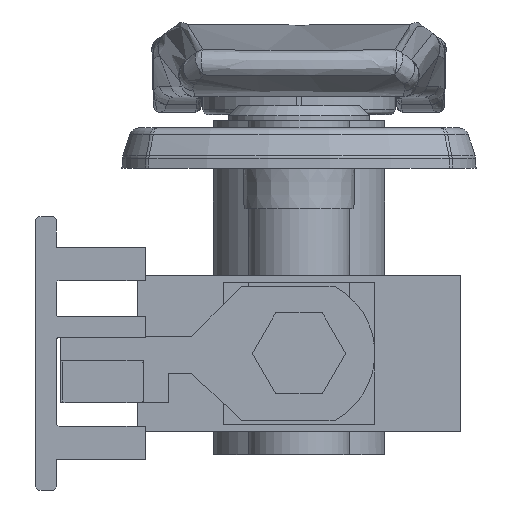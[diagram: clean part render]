
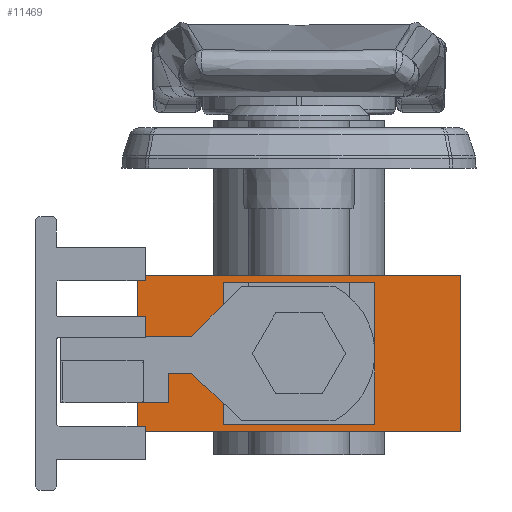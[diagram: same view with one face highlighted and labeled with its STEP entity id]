
A CAD part, front view. The second image highlights one B-rep face of the part: STEP entity #11469.
In plain terms, the highlighted planar face has unit normal (0, -1, 0).
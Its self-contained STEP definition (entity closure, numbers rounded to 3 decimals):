
#1919 = LINE ( 'NONE', #7337, #15697 ) ;
#2293 = DIRECTION ( 'NONE',  ( 1., 0., 0. ) ) ;
#2407 = CARTESIAN_POINT ( 'NONE',  ( 7., -199.25, 6.25 ) ) ;
#2724 = VECTOR ( 'NONE', #11560, 1000. ) ;
#3181 = EDGE_CURVE ( 'NONE', #17954, #22712, #1919, .T. ) ;
#4071 = DIRECTION ( 'NONE',  ( 0., 1., 0. ) ) ;
#4604 = LINE ( 'NONE', #33065, #23860 ) ;
#5096 = DIRECTION ( 'NONE',  ( 0., 0., 1. ) ) ;
#5207 = VERTEX_POINT ( 'NONE', #14035 ) ;
#5763 = VERTEX_POINT ( 'NONE', #31566 ) ;
#5859 = EDGE_LOOP ( 'NONE', ( #24521, #7890, #23962, #11716 ) ) ;
#5931 = CARTESIAN_POINT ( 'NONE',  ( -16., -199.25, 7.75 ) ) ;
#6124 = CARTESIAN_POINT ( 'NONE',  ( -16., -199.25, 7.75 ) ) ;
#6127 = CARTESIAN_POINT ( 'NONE',  ( -7., -199.25, -6.25 ) ) ;
#6302 = LINE ( 'NONE', #6127, #2724 ) ;
#7098 = EDGE_CURVE ( 'NONE', #5207, #5763, #15271, .T. ) ;
#7301 = DIRECTION ( 'NONE',  ( 0., 0., 1. ) ) ;
#7337 = CARTESIAN_POINT ( 'NONE',  ( -7., -199.25, -6.25 ) ) ;
#7890 = ORIENTED_EDGE ( 'NONE', *, *, #7098, .F. ) ;
#8243 = DIRECTION ( 'NONE',  ( 1., 0., 0. ) ) ;
#8316 = LINE ( 'NONE', #5931, #17861 ) ;
#8556 = VECTOR ( 'NONE', #25215, 1000. ) ;
#10591 = ORIENTED_EDGE ( 'NONE', *, *, #13331, .F. ) ;
#11029 = CARTESIAN_POINT ( 'NONE',  ( -7., -199.25, -6.25 ) ) ;
#11202 = ORIENTED_EDGE ( 'NONE', *, *, #16861, .T. ) ;
#11469 = ADVANCED_FACE ( 'NONE', ( #17285, #22677 ), #27757, .F. ) ;
#11560 = DIRECTION ( 'NONE',  ( 0., 0., -1. ) ) ;
#11716 = ORIENTED_EDGE ( 'NONE', *, *, #3181, .F. ) ;
#12021 = CARTESIAN_POINT ( 'NONE',  ( 16., -199.25, -7.75 ) ) ;
#12978 = VERTEX_POINT ( 'NONE', #31257 ) ;
#13066 = EDGE_LOOP ( 'NONE', ( #20223, #31254, #10591, #11202 ) ) ;
#13156 = LINE ( 'NONE', #13485, #18240 ) ;
#13331 = EDGE_CURVE ( 'NONE', #31704, #12978, #30034, .T. ) ;
#13485 = CARTESIAN_POINT ( 'NONE',  ( -16., -199.25, -7.75 ) ) ;
#14035 = CARTESIAN_POINT ( 'NONE',  ( 7., -199.25, 6.25 ) ) ;
#15137 = CARTESIAN_POINT ( 'NONE',  ( -16., -199.25, 7.75 ) ) ;
#15271 = LINE ( 'NONE', #2407, #8556 ) ;
#15437 = DIRECTION ( 'NONE',  ( 1., 0., 0. ) ) ;
#15606 = LINE ( 'NONE', #15773, #16410 ) ;
#15668 = EDGE_CURVE ( 'NONE', #12978, #23616, #4604, .T. ) ;
#15697 = VECTOR ( 'NONE', #15437, 1000. ) ;
#15773 = CARTESIAN_POINT ( 'NONE',  ( 7., -199.25, 6.25 ) ) ;
#16278 = DIRECTION ( 'NONE',  ( 0., 0., -1. ) ) ;
#16410 = VECTOR ( 'NONE', #5096, 1000. ) ;
#16861 = EDGE_CURVE ( 'NONE', #31704, #28318, #8316, .T. ) ;
#17285 = FACE_BOUND ( 'NONE', #5859, .T. ) ;
#17799 = CARTESIAN_POINT ( 'NONE',  ( 7., -199.25, -6.25 ) ) ;
#17861 = VECTOR ( 'NONE', #16278, 1000. ) ;
#17954 = VERTEX_POINT ( 'NONE', #11029 ) ;
#18240 = VECTOR ( 'NONE', #8243, 1000. ) ;
#20223 = ORIENTED_EDGE ( 'NONE', *, *, #20948, .T. ) ;
#20948 = EDGE_CURVE ( 'NONE', #28318, #23616, #13156, .T. ) ;
#22677 = FACE_OUTER_BOUND ( 'NONE', #13066, .T. ) ;
#22712 = VERTEX_POINT ( 'NONE', #17799 ) ;
#23616 = VERTEX_POINT ( 'NONE', #12021 ) ;
#23860 = VECTOR ( 'NONE', #30174, 1000. ) ;
#23960 = CARTESIAN_POINT ( 'NONE',  ( -16., -199.25, -7.75 ) ) ;
#23962 = ORIENTED_EDGE ( 'NONE', *, *, #24692, .F. ) ;
#24521 = ORIENTED_EDGE ( 'NONE', *, *, #29671, .F. ) ;
#24692 = EDGE_CURVE ( 'NONE', #22712, #5207, #15606, .T. ) ;
#25215 = DIRECTION ( 'NONE',  ( -1., 0., 0. ) ) ;
#26032 = AXIS2_PLACEMENT_3D ( 'NONE', #32864, #4071, #7301 ) ;
#27757 = PLANE ( 'NONE',  #26032 ) ;
#27868 = VECTOR ( 'NONE', #2293, 1000. ) ;
#28318 = VERTEX_POINT ( 'NONE', #23960 ) ;
#29671 = EDGE_CURVE ( 'NONE', #5763, #17954, #6302, .T. ) ;
#30034 = LINE ( 'NONE', #15137, #27868 ) ;
#30174 = DIRECTION ( 'NONE',  ( 0., 0., -1. ) ) ;
#31254 = ORIENTED_EDGE ( 'NONE', *, *, #15668, .F. ) ;
#31257 = CARTESIAN_POINT ( 'NONE',  ( 16., -199.25, 7.75 ) ) ;
#31566 = CARTESIAN_POINT ( 'NONE',  ( -7., -199.25, 6.25 ) ) ;
#31704 = VERTEX_POINT ( 'NONE', #6124 ) ;
#32864 = CARTESIAN_POINT ( 'NONE',  ( -16., -199.25, 7.75 ) ) ;
#33065 = CARTESIAN_POINT ( 'NONE',  ( 16., -199.25, 7.75 ) ) ;
